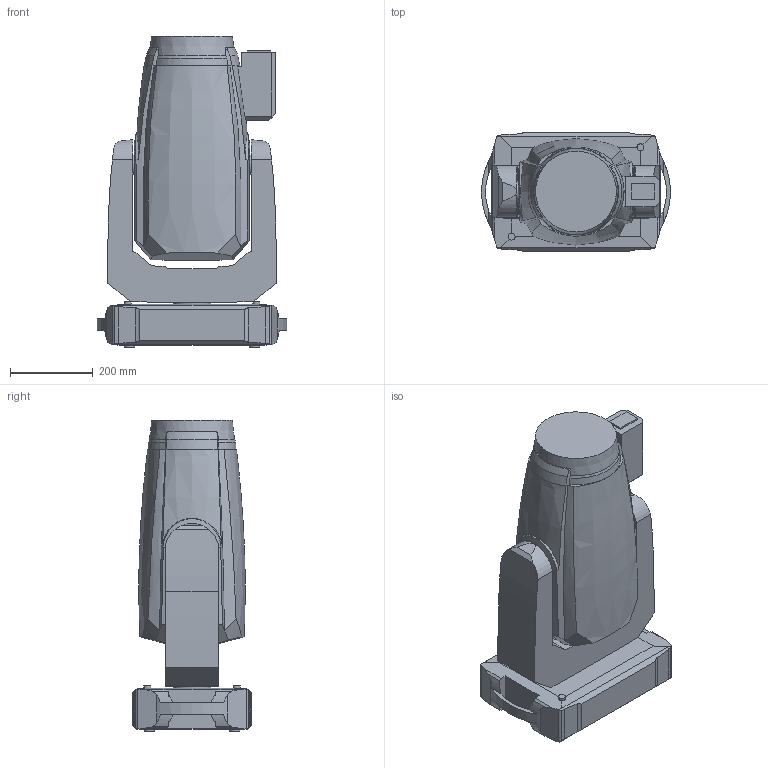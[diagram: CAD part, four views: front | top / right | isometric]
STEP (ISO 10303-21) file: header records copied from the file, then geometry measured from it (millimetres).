
FILE_DESCRIPTION(/* description */ ('Unknown'),/* implementation_level */ '2;1');
FILE_NAME(/* name */ '3D_Robin iEsprite FoSp-01',/* time_stamp */ '2023-11-13T15:14:58+01:00',/* author */ ('Unknown'),/* organization */ ('Unknown'),/* preprocessor_version */ 'ST-DEVELOPER v18.104',/* originating_system */ 'Solid Edge',/* authorisation */ 'Unknown');
FILE_SCHEMA (('AUTOMOTIVE_DESIGN {1 0 10303 214 3 1 1}'));
Length unit declared in the file: millimetre
Products named in the file (4): 3D_Robin iEsprite FoSp; iEsprite_Base; iEsprite_Arm; iEsprite_Head_FoSp
Assembly tree (3 placements, depth 2):
  3D_Robin iEsprite FoSp
    iEsprite_Base
    iEsprite_Arm
    iEsprite_Head_FoSp
Bounding box: 457.87 x 289.25 x 754.45 mm (x, y, z)
Volume: 49143757.4 mm3; surface area: 1372613.3 mm2
Topology: 3 solids, 3 shells, 225 faces, 616 edges, 413 vertices
Faces by surface type: plane 116, cylinder 67, bspline 34, cone 7, torus 1
Full cylindrical faces by diameter (mm): 8.661 x8, 16.8 x2, 25.264 x4, 40 x1, 50 x2, 69 x1, 92.067 x1
Entity records: 13986 total; most frequent: CARTESIAN_POINT 8560, ORIENTED_EDGE 1172, DIRECTION 973, EDGE_CURVE 586, VERTEX_POINT 403, AXIS2_PLACEMENT_3D 352, LINE 269, VECTOR 269
